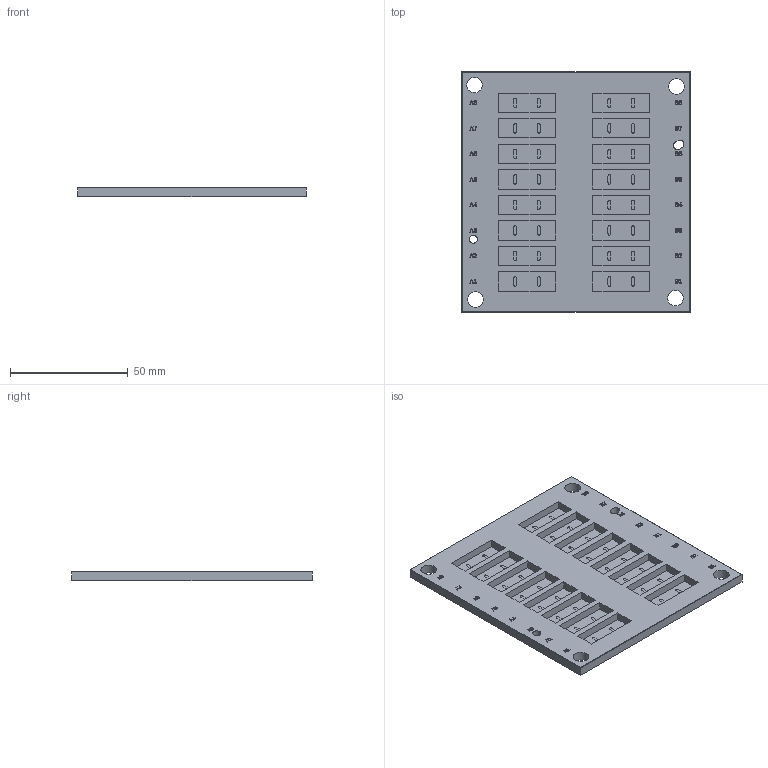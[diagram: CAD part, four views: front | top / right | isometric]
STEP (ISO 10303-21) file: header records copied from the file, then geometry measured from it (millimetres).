
FILE_DESCRIPTION(('Open CASCADE Model'),'2;1');
FILE_NAME('Open CASCADE Shape Model','2026-10-31T05:48:30',('Author'),( 'Open CASCADE'),'Open CASCADE STEP processor 7.8','Open CASCADE 7.8' ,'Unknown');
FILE_SCHEMA(('AUTOMOTIVE_DESIGN { 1 0 10303 214 1 1 1 1 }'));
Products named in the file (1): Open CASCADE STEP translator 7.8 4
Bounding box: 97 x 102 x 4 mm (x, y, z)
Volume: 28116.2 mm3; surface area: 25240 mm2
Topology: 1 solids, 1 shells, 933 faces, 2453 edges, 1634 vertices
Faces by surface type: plane 510, extrusion 352, cylinder 71
Full cylindrical faces by diameter (mm): 3.4 x1, 6.6 x4
Entity records: 65620 total; most frequent: CARTESIAN_POINT 20631, DIRECTION 6409, ORIENTED_EDGE 4906, PCURVE 4906, DEFINITIONAL_REPRESENTATION 4906, VECTOR 4887, LINE 4535, B_SPLINE_CURVE_WITH_KNOTS 2892
